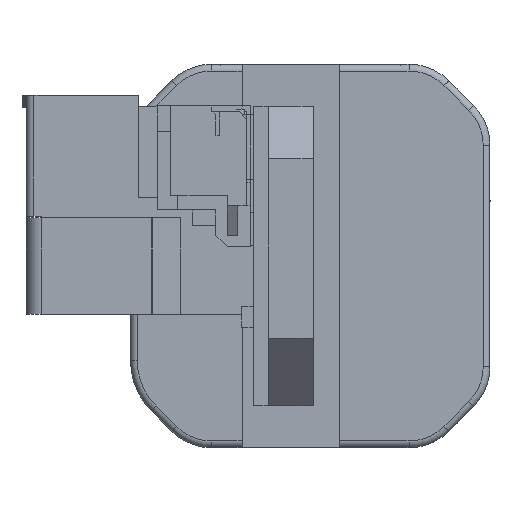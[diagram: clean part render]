
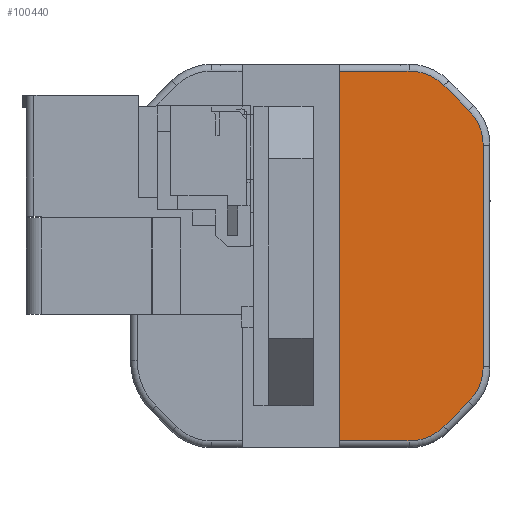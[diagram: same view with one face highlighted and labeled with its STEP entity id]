
A CAD part, left-side view. The second image highlights one B-rep face of the part: STEP entity #100440.
In plain terms, the highlighted planar face has unit normal (-1, 0, 0).
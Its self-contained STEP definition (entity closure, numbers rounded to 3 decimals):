
#99530=CARTESIAN_POINT('',(5.781,-5.946,45.857));
#99540=DIRECTION('',(-1.,0.,0.));
#99550=DIRECTION('',(0.,1.,0.));
#99560=AXIS2_PLACEMENT_3D('',#99530,#99540,#99550);
#99570=PLANE('',#99560);
#99580=CARTESIAN_POINT('',(5.781,-4.733,42.61));
#99590=DIRECTION('',(0.,0.707,0.707));
#99600=VECTOR('',#99590,1.);
#99610=LINE('',#99580,#99600);
#99620=CARTESIAN_POINT('',(5.781,-4.733,42.61));
#99630=VERTEX_POINT('',#99620);
#99640=CARTESIAN_POINT('',(5.781,-3.077,44.267));
#99650=VERTEX_POINT('',#99640);
#99660=EDGE_CURVE('',#99630,#99650,#99610,.T.);
#99670=ORIENTED_EDGE('',*,*,#99660,.T.);
#99680=CARTESIAN_POINT('',(5.781,-2.4,40.276));
#99690=DIRECTION('',(1.,0.,0.));
#99700=DIRECTION('',(0.,-1.,0.));
#99710=AXIS2_PLACEMENT_3D('',#99680,#99690,#99700);
#99720=CIRCLE('',#99710,3.3);
#99730=CARTESIAN_POINT('',(5.781,-5.7,40.276));
#99740=VERTEX_POINT('',#99730);
#99750=EDGE_CURVE('',#99630,#99740,#99720,.T.);
#99760=ORIENTED_EDGE('',*,*,#99750,.F.);
#99770=CARTESIAN_POINT('',(5.781,-5.7,
25.49));
#99780=DIRECTION('',(0.,0.,1.));
#99790=VECTOR('',#99780,1.);
#99800=LINE('',#99770,#99790);
#99810=CARTESIAN_POINT('',(5.781,-5.7,
25.49));
#99820=VERTEX_POINT('',#99810);
#99830=EDGE_CURVE('',#99820,#99740,#99800,.T.);
#99840=ORIENTED_EDGE('',*,*,#99830,.T.);
#99850=CARTESIAN_POINT('',(5.781,-2.4,25.49));
#99860=DIRECTION('',(1.,0.,0.));
#99870=DIRECTION('',(0.,-1.,0.));
#99880=AXIS2_PLACEMENT_3D('',#99850,#99860,#99870);
#99890=CIRCLE('',#99880,3.3);
#99900=CARTESIAN_POINT('',(5.781,-4.733,
23.157));
#99910=VERTEX_POINT('',#99900);
#99920=EDGE_CURVE('',#99820,#99910,#99890,.T.);
#99930=ORIENTED_EDGE('',*,*,#99920,.F.);
#99940=CARTESIAN_POINT('',(5.781,-3.077,
21.5));
#99950=DIRECTION('',(0.,-0.707,0.707));
#99960=VECTOR('',#99950,1.);
#99970=LINE('',#99940,#99960);
#99980=CARTESIAN_POINT('',(5.781,-3.077,
21.5));
#99990=VERTEX_POINT('',#99980);
#100000=EDGE_CURVE('',#99990,#99910,#99970,.T.);
#100010=ORIENTED_EDGE('',*,*,#100000,.T.);
#100020=CARTESIAN_POINT('',(5.781,-0.743,
23.833));
#100030=DIRECTION('',(1.,0.,0.));
#100040=DIRECTION('',(0.,-1.,0.));
#100050=AXIS2_PLACEMENT_3D('',#100020,#100030,#100040);
#100060=CIRCLE('',#100050,3.3);
#100070=CARTESIAN_POINT('',(5.781,-0.743,
20.533));
#100080=VERTEX_POINT('',#100070);
#100090=EDGE_CURVE('',#99990,#100080,#100060,.T.);
#100100=ORIENTED_EDGE('',*,*,#100090,.F.);
#100110=CARTESIAN_POINT('',(5.781,3.9,
20.533));
#100120=DIRECTION('',(0.,-1.,0.));
#100130=VECTOR('',#100120,1.);
#100140=LINE('',#100110,#100130);
#100150=CARTESIAN_POINT('',(5.781,3.9,
20.533));
#100160=VERTEX_POINT('',#100150);
#100170=EDGE_CURVE('',#100160,#100080,#100140,.T.);
#100180=ORIENTED_EDGE('',*,*,#100170,.T.);
#100190=CARTESIAN_POINT('',(5.781,3.9,0.));
#100200=DIRECTION('',(0.,0.,-1.));
#100210=VECTOR('',#100200,1.);
#100220=LINE('',#100190,#100210);
#100230=CARTESIAN_POINT('',(5.781,3.9,45.233));
#100240=VERTEX_POINT('',#100230);
#100250=EDGE_CURVE('',#100240,#100160,#100220,.T.);
#100260=ORIENTED_EDGE('',*,*,#100250,.T.);
#100270=CARTESIAN_POINT('',(5.781,3.9,45.233));
#100280=DIRECTION('',(0.,-1.,0.));
#100290=VECTOR('',#100280,1.);
#100300=LINE('',#100270,#100290);
#100310=CARTESIAN_POINT('',(5.781,-0.743,45.233))
;
#100320=VERTEX_POINT('',#100310);
#100330=EDGE_CURVE('',#100240,#100320,#100300,.T.);
#100340=ORIENTED_EDGE('',*,*,#100330,.F.);
#100350=CARTESIAN_POINT('',(5.781,-0.743,
41.933));
#100360=DIRECTION('',(-1.,0.,0.));
#100370=DIRECTION('',(0.,1.,0.));
#100380=AXIS2_PLACEMENT_3D('',#100350,#100360,#100370);
#100390=CIRCLE('',#100380,3.3);
#100400=EDGE_CURVE('',#99650,#100320,#100390,.T.);
#100410=ORIENTED_EDGE('',*,*,#100400,.T.);
#100420=EDGE_LOOP('',(#100410,#100340,#100260,#100180,#100100,#100010,
#99930,#99840,#99760,#99670));
#100430=FACE_OUTER_BOUND('',#100420,.T.);
#100440=ADVANCED_FACE('',(#100430),#99570,.T.);
